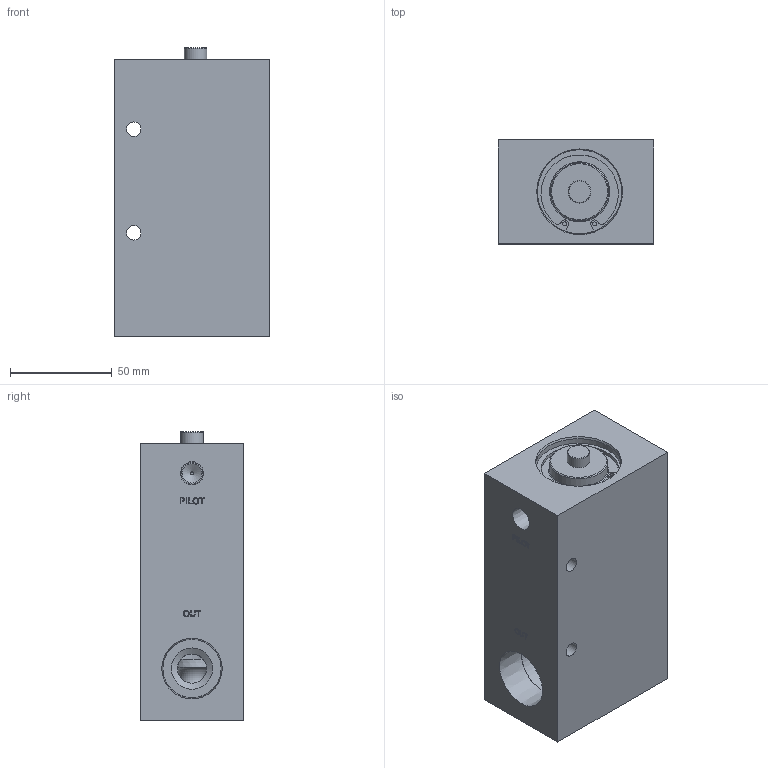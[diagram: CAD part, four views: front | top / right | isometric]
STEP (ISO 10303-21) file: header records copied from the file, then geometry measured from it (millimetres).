
FILE_DESCRIPTION(/* description */ (''),/* implementation_level */ '2;1');
FILE_NAME(/* name */ 'L:\ALADCO\Advertising\3D Content\Valves\Step Files - 2014-11-19 thru Present\30010X.stp',/* time_stamp */ '2014-11-19T14:42:01-06:00',/* author */ ('dmatz'),/* organization */ ('Aladdin Eng. & Manf. Inc.'),/* preprocessor_version */ 'ST-DEVELOPER v15.2',/* originating_system */ 'Autodesk Inventor 2014',/* authorisation */ '0 in^3');
FILE_SCHEMA (('AUTOMOTIVE_DESIGN { 1 0 10303 214 3 1 1 }'));
Length unit declared in the file: inch
Products named in the file (10): 301235; 311050; 1.312-1.25; 311058; 311047; 311021; 1.625-1.562; 311057; 311066; 300101
Bounding box: 76.2 x 50.8 x 141.6 mm (x, y, z)
Volume: 411919.7 mm3; surface area: 73675.3 mm2
Topology: 7 solids, 7 shells, 235 faces, 531 edges, 349 vertices
Faces by surface type: plane 117, cylinder 54, bspline 26, cone 20, torus 18
Full cylindrical faces by diameter (mm): 1.499 x1, 1.93 x4, 3.302 x1, 6.629 x1, 6.858 x1, 7.112 x2, 10.719 x1, 11.049 x2, 11.1 x2, 12.7 x1, 14.249 x1, 14.287 x2, 17.501 x1, 18.034 x1, 19.05 x2, 20.015 x1, 28.448 x1, 28.575 x2, 29.21 x1, 31.75 x1, 33.274 x2, 33.325 x3, 35.458 x1, 37.16 x1, 38.1 x1, 41.224 x2, 41.275 x2, 43.815 x1
Entity records: 6857 total; most frequent: CARTESIAN_POINT 1676, DIRECTION 968, ORIENTED_EDGE 854, EDGE_CURVE 427, EDGE_LOOP 378, AXIS2_PLACEMENT_3D 372, VERTEX_POINT 325, ADVANCED_FACE 235
